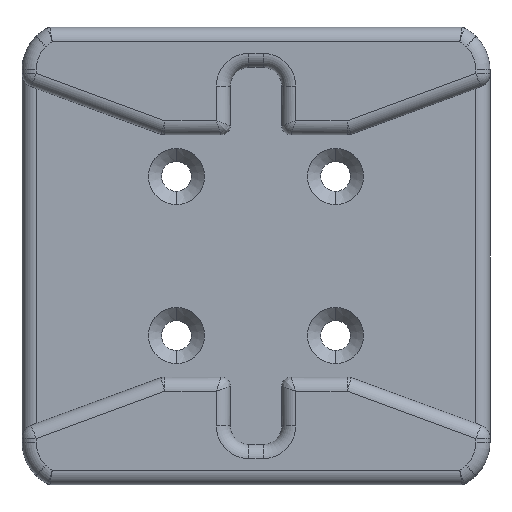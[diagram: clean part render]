
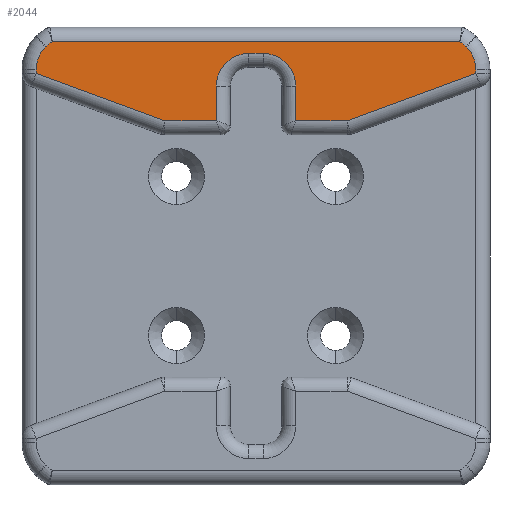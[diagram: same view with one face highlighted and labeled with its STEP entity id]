
A CAD part, front view. The second image highlights one B-rep face of the part: STEP entity #2044.
In plain terms, the highlighted planar face has unit normal (0, -1, 0).
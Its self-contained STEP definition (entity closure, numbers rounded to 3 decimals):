
#77 = EDGE_CURVE ( 'NONE', #1735, #4380, #1049, .T. ) ;
#157 = CARTESIAN_POINT ( 'NONE',  ( 2.596, 0., -2.525 ) ) ;
#207 = CARTESIAN_POINT ( 'NONE',  ( 20.75, 0., -6.8 ) ) ;
#228 = CARTESIAN_POINT ( 'NONE',  ( 34.822, 0., -10.5 ) ) ;
#421 = LINE ( 'NONE', #2290, #3117 ) ;
#469 = VECTOR ( 'NONE', #1519, 1000. ) ;
#565 = CARTESIAN_POINT ( 'NONE',  ( 48.5, 0., -5.071 ) ) ;
#566 = ORIENTED_EDGE ( 'NONE', *, *, #4603, .T. ) ;
#609 = AXIS2_PLACEMENT_3D ( 'NONE', #3509, #4016, #964 ) ;
#700 = ORIENTED_EDGE ( 'NONE', *, *, #77, .T. ) ;
#727 = VERTEX_POINT ( 'NONE', #2130 ) ;
#834 = CARTESIAN_POINT ( 'NONE',  ( 29.25, 0., -11. ) ) ;
#964 = DIRECTION ( 'NONE',  ( 0., 0., -1. ) ) ;
#1024 = AXIS2_PLACEMENT_3D ( 'NONE', #3089, #5122, #5634 ) ;
#1049 = LINE ( 'NONE', #228, #4652 ) ;
#1167 = DIRECTION ( 'NONE',  ( 0., 0., -1. ) ) ;
#1191 = CARTESIAN_POINT ( 'NONE',  ( 1.5, 0., -5.071 ) ) ;
#1251 = CARTESIAN_POINT ( 'NONE',  ( 48.5, 0., -5.452 ) ) ;
#1295 = DIRECTION ( 'NONE',  ( -0.707, 0., -0.707 ) ) ;
#1335 = LINE ( 'NONE', #4069, #469 ) ;
#1338 = LINE ( 'NONE', #4565, #3990 ) ;
#1396 = EDGE_CURVE ( 'NONE', #1960, #5431, #5406, .T. ) ;
#1401 = ORIENTED_EDGE ( 'NONE', *, *, #6464, .T. ) ;
#1410 = EDGE_CURVE ( 'NONE', #4380, #2912, #1335, .T. ) ;
#1438 = ORIENTED_EDGE ( 'NONE', *, *, #2808, .T. ) ;
#1519 = DIRECTION ( 'NONE',  ( 0.939, 0., 0.344 ) ) ;
#1535 = DIRECTION ( 'NONE',  ( -0.707, 0., 0.707 ) ) ;
#1556 = VERTEX_POINT ( 'NONE', #157 ) ;
#1561 = LINE ( 'NONE', #2005, #6032 ) ;
#1562 = VECTOR ( 'NONE', #1535, 1000. ) ;
#1614 = CIRCLE ( 'NONE', #3198, 3.5 ) ;
#1615 = VERTEX_POINT ( 'NONE', #3676 ) ;
#1735 = VERTEX_POINT ( 'NONE', #2863 ) ;
#1744 = EDGE_CURVE ( 'NONE', #1556, #3486, #6580, .T. ) ;
#1877 = VECTOR ( 'NONE', #5969, 1000. ) ;
#1891 = ORIENTED_EDGE ( 'NONE', *, *, #5511, .T. ) ;
#1906 = CIRCLE ( 'NONE', #5382, 3.5 ) ;
#1960 = VERTEX_POINT ( 'NONE', #5583 ) ;
#1973 = FACE_OUTER_BOUND ( 'NONE', #5564, .T. ) ;
#2005 = CARTESIAN_POINT ( 'NONE',  ( 21.25, 0., -10.5 ) ) ;
#2024 = ORIENTED_EDGE ( 'NONE', *, *, #6283, .T. ) ;
#2044 = ADVANCED_FACE ( 'NONE', ( #1973 ), #3214, .T. ) ;
#2046 = LINE ( 'NONE', #207, #3644 ) ;
#2051 = CARTESIAN_POINT ( 'NONE',  ( 3.234, 0., -2.021 ) ) ;
#2130 = CARTESIAN_POINT ( 'NONE',  ( 20.75, 0., -10.5 ) ) ;
#2136 = DIRECTION ( 'NONE',  ( 0., -1., 0. ) ) ;
#2186 = EDGE_CURVE ( 'NONE', #4609, #1735, #3416, .T. ) ;
#2229 = CIRCLE ( 'NONE', #609, 3.5 ) ;
#2290 = CARTESIAN_POINT ( 'NONE',  ( 1.5, 0., -6.5 ) ) ;
#2291 = CARTESIAN_POINT ( 'NONE',  ( 25.75, 0., -6.8 ) ) ;
#2328 = ORIENTED_EDGE ( 'NONE', *, *, #2186, .T. ) ;
#2376 = CARTESIAN_POINT ( 'NONE',  ( 2.525, 0., -2.596 ) ) ;
#2488 = DIRECTION ( 'NONE',  ( 0., 0., -1. ) ) ;
#2543 = EDGE_CURVE ( 'NONE', #1615, #6356, #1338, .T. ) ;
#2551 = CARTESIAN_POINT ( 'NONE',  ( 47.404, 0., -2.525 ) ) ;
#2630 = VERTEX_POINT ( 'NONE', #2051 ) ;
#2682 = ORIENTED_EDGE ( 'NONE', *, *, #6244, .T. ) ;
#2699 = CARTESIAN_POINT ( 'NONE',  ( 5., 0., -5.071 ) ) ;
#2722 = AXIS2_PLACEMENT_3D ( 'NONE', #3195, #2136, #3711 ) ;
#2727 = DIRECTION ( 'NONE',  ( -1., 0., 0. ) ) ;
#2728 = VERTEX_POINT ( 'NONE', #5661 ) ;
#2774 = CARTESIAN_POINT ( 'NONE',  ( 45., 0., -5.071 ) ) ;
#2808 = EDGE_CURVE ( 'NONE', #5981, #2728, #421, .T. ) ;
#2825 = ORIENTED_EDGE ( 'NONE', *, *, #3891, .T. ) ;
#2863 = CARTESIAN_POINT ( 'NONE',  ( 29.25, 0., -10.5 ) ) ;
#2912 = VERTEX_POINT ( 'NONE', #1251 ) ;
#3028 = DIRECTION ( 'NONE',  ( 1., 0., 0. ) ) ;
#3046 = CARTESIAN_POINT ( 'NONE',  ( 34.734, 0., -10.5 ) ) ;
#3089 = CARTESIAN_POINT ( 'NONE',  ( 44.929, 0., -5. ) ) ;
#3117 = VECTOR ( 'NONE', #4343, 1000. ) ;
#3189 = CARTESIAN_POINT ( 'NONE',  ( 47.475, 0., -2.596 ) ) ;
#3195 = CARTESIAN_POINT ( 'NONE',  ( 0., 0., 0. ) ) ;
#3198 = AXIS2_PLACEMENT_3D ( 'NONE', #2774, #6382, #6317 ) ;
#3214 = PLANE ( 'NONE',  #2722 ) ;
#3236 = CARTESIAN_POINT ( 'NONE',  ( 25.75, 0., -3.3 ) ) ;
#3255 = DIRECTION ( 'NONE',  ( 0., 0., 1. ) ) ;
#3285 = CARTESIAN_POINT ( 'NONE',  ( 2.525, 0., -2.596 ) ) ;
#3294 = CARTESIAN_POINT ( 'NONE',  ( 0., 0., -2.021 ) ) ;
#3328 = CARTESIAN_POINT ( 'NONE',  ( 48.5, 0., -5.071 ) ) ;
#3416 = LINE ( 'NONE', #834, #1877 ) ;
#3474 = AXIS2_PLACEMENT_3D ( 'NONE', #3715, #5764, #5725 ) ;
#3479 = VERTEX_POINT ( 'NONE', #4723 ) ;
#3486 = VERTEX_POINT ( 'NONE', #3285 ) ;
#3509 = CARTESIAN_POINT ( 'NONE',  ( 24.25, 0., -6.8 ) ) ;
#3574 = EDGE_CURVE ( 'NONE', #4812, #5785, #1614, .T. ) ;
#3644 = VECTOR ( 'NONE', #3255, 1000. ) ;
#3676 = CARTESIAN_POINT ( 'NONE',  ( 24.25, 0., -3.3 ) ) ;
#3704 = CIRCLE ( 'NONE', #6059, 3.5 ) ;
#3711 = DIRECTION ( 'NONE',  ( 0., 0., -1. ) ) ;
#3715 = CARTESIAN_POINT ( 'NONE',  ( 5.071, 0., -5. ) ) ;
#3797 = DIRECTION ( 'NONE',  ( 1., 0., 0. ) ) ;
#3877 = LINE ( 'NONE', #4631, #5151 ) ;
#3891 = EDGE_CURVE ( 'NONE', #5431, #2630, #6468, .T. ) ;
#3959 = CARTESIAN_POINT ( 'NONE',  ( 46.766, 0., -2.021 ) ) ;
#3990 = VECTOR ( 'NONE', #3028, 1000. ) ;
#3991 = VECTOR ( 'NONE', #1295, 1000. ) ;
#4016 = DIRECTION ( 'NONE',  ( 0., 1., 0. ) ) ;
#4029 = ORIENTED_EDGE ( 'NONE', *, *, #6037, .T. ) ;
#4069 = CARTESIAN_POINT ( 'NONE',  ( 7.51, 0., -20.482 ) ) ;
#4184 = EDGE_CURVE ( 'NONE', #2728, #3479, #3877, .T. ) ;
#4231 = DIRECTION ( 'NONE',  ( 0., -1., 0. ) ) ;
#4265 = CARTESIAN_POINT ( 'NONE',  ( 29.25, 0., -6.8 ) ) ;
#4343 = DIRECTION ( 'NONE',  ( 0., 0., -1. ) ) ;
#4380 = VERTEX_POINT ( 'NONE', #3046 ) ;
#4565 = CARTESIAN_POINT ( 'NONE',  ( 25.75, 0., -3.3 ) ) ;
#4580 = VECTOR ( 'NONE', #2727, 1000. ) ;
#4603 = EDGE_CURVE ( 'NONE', #727, #4940, #2046, .T. ) ;
#4609 = VERTEX_POINT ( 'NONE', #4265 ) ;
#4631 = CARTESIAN_POINT ( 'NONE',  ( -1.584, 0., -4.321 ) ) ;
#4652 = VECTOR ( 'NONE', #3797, 1000. ) ;
#4723 = CARTESIAN_POINT ( 'NONE',  ( 15.266, 0., -10.5 ) ) ;
#4812 = VERTEX_POINT ( 'NONE', #565 ) ;
#4813 = VECTOR ( 'NONE', #5902, 1000. ) ;
#4869 = EDGE_CURVE ( 'NONE', #3479, #727, #1561, .T. ) ;
#4940 = VERTEX_POINT ( 'NONE', #6242 ) ;
#5000 = ORIENTED_EDGE ( 'NONE', *, *, #1410, .T. ) ;
#5028 = ORIENTED_EDGE ( 'NONE', *, *, #4184, .T. ) ;
#5122 = DIRECTION ( 'NONE',  ( 0., -1., 0. ) ) ;
#5139 = LINE ( 'NONE', #3328, #4813 ) ;
#5151 = VECTOR ( 'NONE', #6144, 1000. ) ;
#5382 = AXIS2_PLACEMENT_3D ( 'NONE', #2699, #4231, #1167 ) ;
#5392 = CIRCLE ( 'NONE', #3474, 3.5 ) ;
#5406 = CIRCLE ( 'NONE', #1024, 3.5 ) ;
#5431 = VERTEX_POINT ( 'NONE', #3959 ) ;
#5435 = ORIENTED_EDGE ( 'NONE', *, *, #4869, .T. ) ;
#5483 = ORIENTED_EDGE ( 'NONE', *, *, #1744, .T. ) ;
#5511 = EDGE_CURVE ( 'NONE', #4940, #1615, #2229, .T. ) ;
#5564 = EDGE_LOOP ( 'NONE', ( #700, #5000, #1401, #5837, #2682, #6513, #2825, #2024, #5483, #5831, #1438, #5028, #5435, #566, #1891, #6367, #4029, #2328 ) ) ;
#5583 = CARTESIAN_POINT ( 'NONE',  ( 47.404, 0., -2.525 ) ) ;
#5634 = DIRECTION ( 'NONE',  ( 0., 0., -1. ) ) ;
#5661 = CARTESIAN_POINT ( 'NONE',  ( 1.5, 0., -5.452 ) ) ;
#5725 = DIRECTION ( 'NONE',  ( 0., 0., -1. ) ) ;
#5754 = EDGE_CURVE ( 'NONE', #3486, #5981, #1906, .T. ) ;
#5764 = DIRECTION ( 'NONE',  ( 0., -1., 0. ) ) ;
#5785 = VERTEX_POINT ( 'NONE', #3189 ) ;
#5831 = ORIENTED_EDGE ( 'NONE', *, *, #5754, .T. ) ;
#5837 = ORIENTED_EDGE ( 'NONE', *, *, #3574, .T. ) ;
#5902 = DIRECTION ( 'NONE',  ( 0., 0., 1. ) ) ;
#5944 = LINE ( 'NONE', #2551, #1562 ) ;
#5969 = DIRECTION ( 'NONE',  ( 0., 0., -1. ) ) ;
#5981 = VERTEX_POINT ( 'NONE', #1191 ) ;
#6032 = VECTOR ( 'NONE', #6574, 1000. ) ;
#6037 = EDGE_CURVE ( 'NONE', #6356, #4609, #3704, .T. ) ;
#6059 = AXIS2_PLACEMENT_3D ( 'NONE', #2291, #6492, #2488 ) ;
#6144 = DIRECTION ( 'NONE',  ( 0.939, 0., -0.344 ) ) ;
#6242 = CARTESIAN_POINT ( 'NONE',  ( 20.75, 0., -6.8 ) ) ;
#6244 = EDGE_CURVE ( 'NONE', #5785, #1960, #5944, .T. ) ;
#6283 = EDGE_CURVE ( 'NONE', #2630, #1556, #5392, .T. ) ;
#6317 = DIRECTION ( 'NONE',  ( 0., 0., -1. ) ) ;
#6356 = VERTEX_POINT ( 'NONE', #3236 ) ;
#6367 = ORIENTED_EDGE ( 'NONE', *, *, #2543, .T. ) ;
#6382 = DIRECTION ( 'NONE',  ( 0., -1., 0. ) ) ;
#6464 = EDGE_CURVE ( 'NONE', #2912, #4812, #5139, .T. ) ;
#6468 = LINE ( 'NONE', #3294, #4580 ) ;
#6492 = DIRECTION ( 'NONE',  ( 0., 1., 0. ) ) ;
#6513 = ORIENTED_EDGE ( 'NONE', *, *, #1396, .T. ) ;
#6574 = DIRECTION ( 'NONE',  ( 1., 0., 0. ) ) ;
#6580 = LINE ( 'NONE', #2376, #3991 ) ;
